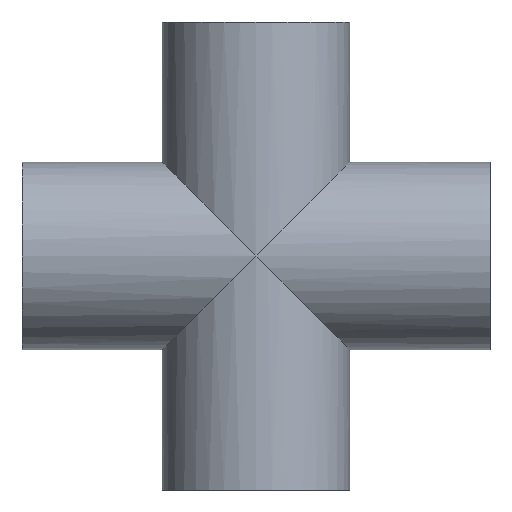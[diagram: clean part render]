
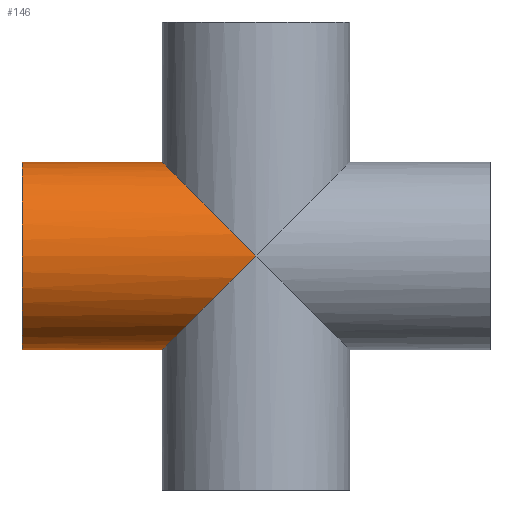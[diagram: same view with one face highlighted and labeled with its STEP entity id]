
A CAD part, front view. The second image highlights one B-rep face of the part: STEP entity #146.
In plain terms, the highlighted cylindrical face has radius 31.75 mm (diameter 63.5 mm), a partial arc.
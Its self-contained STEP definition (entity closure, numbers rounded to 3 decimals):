
#47 = CIRCLE ( 'NONE', #154, 31.75 ) ;
#48 = DIRECTION ( 'NONE',  ( 1., 0., 0. ) ) ;
#60 = EDGE_CURVE ( 'NONE', #507, #182, #47, .T. ) ;
#63 = CARTESIAN_POINT ( 'NONE',  ( -79.375, 0., 0. ) ) ;
#89 = ORIENTED_EDGE ( 'NONE', *, *, #275, .F. ) ;
#99 = DIRECTION ( 'NONE',  ( 1., 0., 0. ) ) ;
#100 = ORIENTED_EDGE ( 'NONE', *, *, #239, .T. ) ;
#108 = VERTEX_POINT ( 'NONE', #354 ) ;
#109 = EDGE_CURVE ( 'NONE', #182, #307, #194, .T. ) ;
#111 = AXIS2_PLACEMENT_3D ( 'NONE', #63, #48, #587 ) ;
#132 = CARTESIAN_POINT ( 'NONE',  ( -79.375, 0., 31.75 ) ) ;
#146 = ADVANCED_FACE ( 'NONE', ( #425 ), #395, .T. ) ;
#154 = AXIS2_PLACEMENT_3D ( 'NONE', #279, #286, #289 ) ;
#160 =( BOUNDED_CURVE ( )  B_SPLINE_CURVE ( 3, ( #529, #536, #487, #464 ),
 .UNSPECIFIED., .F., .F. ) 
 B_SPLINE_CURVE_WITH_KNOTS ( ( 4, 4 ),
 ( 4.712, 6.283 ),
 .UNSPECIFIED. ) 
 CURVE ( )  GEOMETRIC_REPRESENTATION_ITEM ( )  RATIONAL_B_SPLINE_CURVE ( ( 1., 0.805, 0.805, 1. ) ) 
 REPRESENTATION_ITEM ( '' )  );
#182 = VERTEX_POINT ( 'NONE', #619 ) ;
#194 = LINE ( 'NONE', #361, #570 ) ;
#203 = EDGE_LOOP ( 'NONE', ( #523, #434, #563, #89, #100 ) ) ;
#239 = EDGE_CURVE ( 'NONE', #108, #461, #160, .T. ) ;
#247 = VECTOR ( 'NONE', #99, 1000. ) ;
#275 = EDGE_CURVE ( 'NONE', #108, #307, #288, .T. ) ;
#279 = CARTESIAN_POINT ( 'NONE',  ( -79.375, 0., 0. ) ) ;
#286 = DIRECTION ( 'NONE',  ( 1., 0., 0. ) ) ;
#288 =( BOUNDED_CURVE ( )  B_SPLINE_CURVE ( 3, ( #426, #427, #404, #400 ),
 .UNSPECIFIED., .F., .T. ) 
 B_SPLINE_CURVE_WITH_KNOTS ( ( 4, 4 ),
 ( 1.571, 3.142 ),
 .UNSPECIFIED. ) 
 CURVE ( )  GEOMETRIC_REPRESENTATION_ITEM ( )  RATIONAL_B_SPLINE_CURVE ( ( 1., 0.805, 0.805, 1. ) ) 
 REPRESENTATION_ITEM ( '' )  );
#289 = DIRECTION ( 'NONE',  ( 0., 0., -1. ) ) ;
#307 = VERTEX_POINT ( 'NONE', #607 ) ;
#344 = CARTESIAN_POINT ( 'NONE',  ( -79.375, 0., 31.75 ) ) ;
#352 = CARTESIAN_POINT ( 'NONE',  ( -31.75, 0., 31.75 ) ) ;
#354 = CARTESIAN_POINT ( 'NONE',  ( 0., -31.75, 0. ) ) ;
#357 = LINE ( 'NONE', #344, #247 ) ;
#361 = CARTESIAN_POINT ( 'NONE',  ( -79.375, 0., -31.75 ) ) ;
#371 = DIRECTION ( 'NONE',  ( 1., 0., 0. ) ) ;
#395 = CYLINDRICAL_SURFACE ( 'NONE', #111, 31.75 ) ;
#400 = CARTESIAN_POINT ( 'NONE',  ( -31.75, 0., -31.75 ) ) ;
#404 = CARTESIAN_POINT ( 'NONE',  ( -31.75, -18.599, -31.75 ) ) ;
#425 = FACE_OUTER_BOUND ( 'NONE', #203, .T. ) ;
#426 = CARTESIAN_POINT ( 'NONE',  ( 0., -31.75, 0. ) ) ;
#427 = CARTESIAN_POINT ( 'NONE',  ( -18.599, -31.75, -18.599 ) ) ;
#434 = ORIENTED_EDGE ( 'NONE', *, *, #60, .T. ) ;
#461 = VERTEX_POINT ( 'NONE', #352 ) ;
#464 = CARTESIAN_POINT ( 'NONE',  ( -31.75, 0., 31.75 ) ) ;
#487 = CARTESIAN_POINT ( 'NONE',  ( -31.75, -18.599, 31.75 ) ) ;
#495 = EDGE_CURVE ( 'NONE', #507, #461, #357, .T. ) ;
#507 = VERTEX_POINT ( 'NONE', #132 ) ;
#523 = ORIENTED_EDGE ( 'NONE', *, *, #495, .F. ) ;
#529 = CARTESIAN_POINT ( 'NONE',  ( 0., -31.75, 0. ) ) ;
#536 = CARTESIAN_POINT ( 'NONE',  ( -18.599, -31.75, 18.599 ) ) ;
#563 = ORIENTED_EDGE ( 'NONE', *, *, #109, .T. ) ;
#570 = VECTOR ( 'NONE', #371, 1000. ) ;
#587 = DIRECTION ( 'NONE',  ( 0., 0., -1. ) ) ;
#607 = CARTESIAN_POINT ( 'NONE',  ( -31.75, 0., -31.75 ) ) ;
#619 = CARTESIAN_POINT ( 'NONE',  ( -79.375, 0., -31.75 ) ) ;
